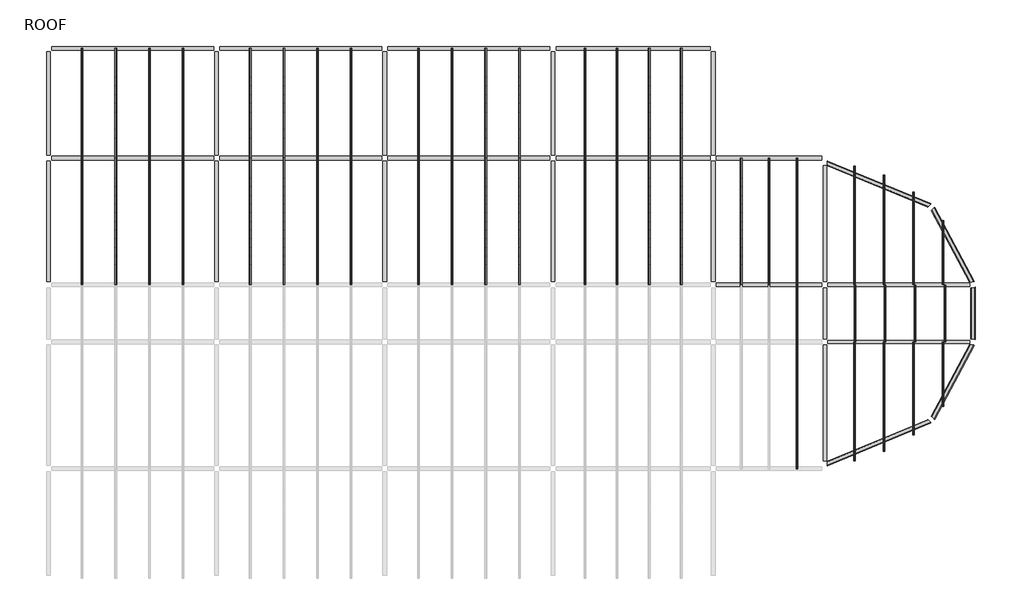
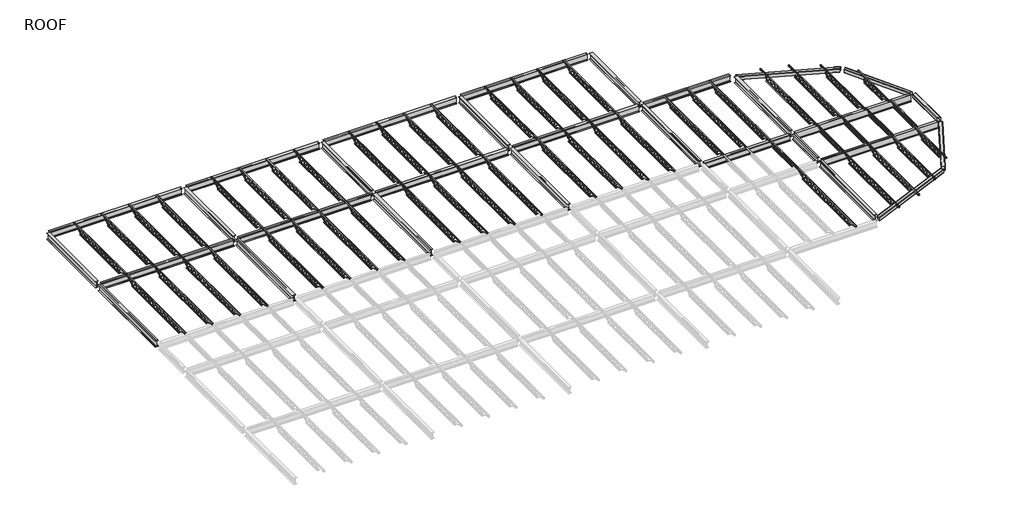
# One storey, part 2 of 2: 79 beams.
"""IFC4 building model written with IfcOpenShell, lengths in millimetres."""

from ifc_helpers import new_model, si_unit, origin, place, context, project, spatial, transform, mapped, element, save
from components import hss_square_hss8x8x3_8_81874951, hss_square_hss8x8x3_8_df46a162, hss_square_hss8x8x3_8_1cc8d9bf, hss_square_hss8x8x3_8_2c6f5ad9, k_series_bar_joist_angle_web_10k1_3bfde562, k_series_bar_joist_angle_web_14k6_e2c2b74f, k_series_bar_joist_angle_web_14k6_a55206d5, k_series_bar_joist_angle_web_14k6_bca73873, k_series_bar_joist_angle_web_14k6_7bd1886d, k_series_bar_joist_angle_web_14k6_bbb4c935, k_series_bar_joist_angle_web_14k6_18eea027, w_shapes_w12x26_ac08b433, w_shapes_w14x30_2b5df836, w_shapes_w14x30_7cdcd298, w_shapes_w14x30_aa676985, w_shapes_w14x30_0fa609c7, w_shapes_w14x30_8a2fed69, w_shapes_w14x30_0dffa004, w_shapes_w14x30_1dc52f8a, w_shapes_w16x26_e0bbcaba

model = new_model("IFC4")

# Units and contexts
model_context = context("Model", 3, world=origin())
ifc_project = project(units=[si_unit("LENGTHUNIT", "METRE", prefix="MILLI")], contexts=[model_context])

# Site, building, storey
site = spatial("IfcSite", under=ifc_project)
building = spatial("IfcBuilding", under=site)
storey = spatial("IfcBuildingStorey", under=building, Name="ROOF", Elevation=18288.0)

# Beams
placement = place(None, origin())
hss_square_hss8x8x3_8_shape = hss_square_hss8x8x3_8_81874951(model_context)
element("IfcBeam", 1, ObjectType="HSS Square : HSS8X8X3/8", at=placement, inside=storey, context=model_context, shape_type="MappedRepresentation", body=[
    mapped(hss_square_hss8x8x3_8_shape, transform((17937.9339721, 4304.5648319, 18122.9), x_axis=(1.0, 0.0, 0.0), y_axis=(0.0, 1.0, 0.0), z_axis=(0.0, 0.0, 1.0))),
])
element("IfcBeam", 2, ObjectType="HSS Square : HSS8X8X3/8", at=placement, inside=storey, context=model_context, shape_type="MappedRepresentation", body=[
    mapped(hss_square_hss8x8x3_8_shape, transform((22753.596317, -7321.472513, 18122.9), x_axis=(-0.7071067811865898, -0.7071067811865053, 0.0), y_axis=(0.7071067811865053, -0.7071067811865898, 0.0), z_axis=(0.0, 0.0, 1.0))),
])
hss_square_hss8x8x3_8_2_shape = hss_square_hss8x8x3_8_df46a162(model_context)
element("IfcBeam", 3, ObjectType="HSS Square : HSS8X8X3/8", at=placement, inside=storey, context=model_context, shape_type="MappedRepresentation", body=[
    mapped(hss_square_hss8x8x3_8_2_shape, transform((22753.596317, 2309.8521769, 18122.9), x_axis=(0.7071067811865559, -0.7071067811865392, 0.0), y_axis=(0.7071067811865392, 0.7071067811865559, 0.0), z_axis=(0.0, 0.0, 1.0))),
])
hss_square_hss8x8x3_8_3_shape = hss_square_hss8x8x3_8_1cc8d9bf(model_context)
element("IfcBeam", 4, ObjectType="HSS Square : HSS8X8X3/8", at=placement, inside=storey, context=model_context, shape_type="MappedRepresentation", body=[
    mapped(hss_square_hss8x8x3_8_3_shape, transform((24623.6673698, -1208.8226681, 18186.4), x_axis=(0.19044289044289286, -0.9816982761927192, 0.0), y_axis=(0.9816982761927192, 0.19044289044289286, 0.0), z_axis=(0.0, 0.0, 1.0))),
])
hss_square_hss8x8x3_8_4_shape = hss_square_hss8x8x3_8_2c6f5ad9(model_context)
element("IfcBeam", 5, ObjectType="HSS Square : HSS8X8X3/8", at=placement, inside=storey, context=model_context, shape_type="MappedRepresentation", body=[
    mapped(hss_square_hss8x8x3_8_4_shape, transform((24623.6673698, -3802.7976681, 18122.9), x_axis=(-0.19044289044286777, -0.981698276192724, 0.0), y_axis=(0.981698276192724, -0.19044289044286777, 0.0), z_axis=(0.0, 0.0, 1.0))),
])
k_series_bar_joist_angle_web_10k1_shape = k_series_bar_joist_angle_web_10k1_3bfde562(model_context)
element("IfcBeam", 6, ObjectType="K-Series Bar Joist-Angle Web : 10K1", at=placement, inside=storey, context=model_context, shape_type="MappedRepresentation", body=[
    mapped(k_series_bar_joist_angle_web_10k1_shape, transform((16674.6808471, -2505.8101681, 18161.0), x_axis=(0.0, -1.0, 0.0), y_axis=(1.0, 0.0, 0.0), z_axis=(0.0, 0.0, 1.0))),
])
element("IfcBeam", 7, ObjectType="K-Series Bar Joist-Angle Web : 10K1", at=placement, inside=storey, context=model_context, shape_type="MappedRepresentation", body=[
    mapped(k_series_bar_joist_angle_web_10k1_shape, transform((23386.2339721, -2505.8101681, 18161.0), x_axis=(0.0, -1.0, 0.0), y_axis=(1.0, 0.0, 0.0), z_axis=(0.0, 0.0, 1.0))),
])
element("IfcBeam", 8, ObjectType="K-Series Bar Joist-Angle Web : 10K1", at=placement, inside=storey, context=model_context, shape_type="MappedRepresentation", body=[
    mapped(k_series_bar_joist_angle_web_10k1_shape, transform((22024.1589721, -2505.8101681, 18161.0), x_axis=(0.0, -1.0, 0.0), y_axis=(1.0, 0.0, 0.0), z_axis=(0.0, 0.0, 1.0))),
])
element("IfcBeam", 9, ObjectType="K-Series Bar Joist-Angle Web : 10K1", at=placement, inside=storey, context=model_context, shape_type="MappedRepresentation", body=[
    mapped(k_series_bar_joist_angle_web_10k1_shape, transform((20662.0839721, -2505.8101681, 18161.0), x_axis=(0.0, -1.0, 0.0), y_axis=(1.0, 0.0, 0.0), z_axis=(0.0, 0.0, 1.0))),
])
element("IfcBeam", 10, ObjectType="K-Series Bar Joist-Angle Web : 10K1", at=placement, inside=storey, context=model_context, shape_type="MappedRepresentation", body=[
    mapped(k_series_bar_joist_angle_web_10k1_shape, transform((19300.0089721, -2505.8101681, 18161.0), x_axis=(0.0, -1.0, 0.0), y_axis=(1.0, 0.0, 0.0), z_axis=(0.0, 0.0, 1.0))),
])
k_series_bar_joist_angle_web_14k6_shape = k_series_bar_joist_angle_web_14k6_e2c2b74f(model_context)
element("IfcBeam", 11, ObjectType="K-Series Bar Joist-Angle Web : 14K6", at=placement, inside=storey, context=model_context, shape_type="MappedRepresentation", body=[
    mapped(k_series_bar_joist_angle_web_14k6_shape, transform((-15718.6535279, 7022.3648319, 18110.2), x_axis=(0.0, 1.0, 0.0), y_axis=(-1.0, 0.0, 0.0), z_axis=(0.0, 0.0, 1.0))),
])
element("IfcBeam", 12, ObjectType="K-Series Bar Joist-Angle Web : 14K6", at=placement, inside=storey, context=model_context, shape_type="MappedRepresentation", body=[
    mapped(k_series_bar_joist_angle_web_14k6_shape, transform((-14194.6535279, 7022.3648319, 18110.2), x_axis=(0.0, 1.0, 0.0), y_axis=(-1.0, 0.0, 0.0), z_axis=(0.0, 0.0, 1.0))),
])
element("IfcBeam", 13, ObjectType="K-Series Bar Joist-Angle Web : 14K6", at=placement, inside=storey, context=model_context, shape_type="MappedRepresentation", body=[
    mapped(k_series_bar_joist_angle_web_14k6_shape, transform((-12670.6535279, 7022.3648319, 18110.2), x_axis=(0.0, 1.0, 0.0), y_axis=(-1.0, 0.0, 0.0), z_axis=(0.0, 0.0, 1.0))),
])
element("IfcBeam", 14, ObjectType="K-Series Bar Joist-Angle Web : 14K6", at=placement, inside=storey, context=model_context, shape_type="MappedRepresentation", body=[
    mapped(k_series_bar_joist_angle_web_14k6_shape, transform((-11146.6535279, 7022.3648319, 18110.2), x_axis=(0.0, 1.0, 0.0), y_axis=(-1.0, 0.0, 0.0), z_axis=(0.0, 0.0, 1.0))),
])
element("IfcBeam", 15, ObjectType="K-Series Bar Joist-Angle Web : 14K6", at=placement, inside=storey, context=model_context, shape_type="MappedRepresentation", body=[
    mapped(k_series_bar_joist_angle_web_14k6_shape, transform((-3526.6535279, 7022.3648319, 18110.2), x_axis=(0.0, -1.0, 0.0), y_axis=(1.0, 0.0, 0.0), z_axis=(0.0, 0.0, 1.0))),
])
element("IfcBeam", 16, ObjectType="K-Series Bar Joist-Angle Web : 14K6", at=placement, inside=storey, context=model_context, shape_type="MappedRepresentation", body=[
    mapped(k_series_bar_joist_angle_web_14k6_shape, transform((-5050.6535279, 7022.3648319, 18110.2), x_axis=(0.0, -1.0, 0.0), y_axis=(1.0, 0.0, 0.0), z_axis=(0.0, 0.0, 1.0))),
])
element("IfcBeam", 17, ObjectType="K-Series Bar Joist-Angle Web : 14K6", at=placement, inside=storey, context=model_context, shape_type="MappedRepresentation", body=[
    mapped(k_series_bar_joist_angle_web_14k6_shape, transform((-6574.6535279, 7022.3648319, 18110.2), x_axis=(0.0, -1.0, 0.0), y_axis=(1.0, 0.0, 0.0), z_axis=(0.0, 0.0, 1.0))),
])
element("IfcBeam", 18, ObjectType="K-Series Bar Joist-Angle Web : 14K6", at=placement, inside=storey, context=model_context, shape_type="MappedRepresentation", body=[
    mapped(k_series_bar_joist_angle_web_14k6_shape, transform((-8098.6535279, 7022.3648319, 18110.2), x_axis=(0.0, -1.0, 0.0), y_axis=(1.0, 0.0, 0.0), z_axis=(0.0, 0.0, 1.0))),
])
element("IfcBeam", 19, ObjectType="K-Series Bar Joist-Angle Web : 14K6", at=placement, inside=storey, context=model_context, shape_type="MappedRepresentation", body=[
    mapped(k_series_bar_joist_angle_web_14k6_shape, transform((4093.3464721, 7022.3648319, 18110.2), x_axis=(0.0, -1.0, 0.0), y_axis=(1.0, 0.0, 0.0), z_axis=(0.0, 0.0, 1.0))),
])
element("IfcBeam", 20, ObjectType="K-Series Bar Joist-Angle Web : 14K6", at=placement, inside=storey, context=model_context, shape_type="MappedRepresentation", body=[
    mapped(k_series_bar_joist_angle_web_14k6_shape, transform((2569.3464721, 7022.3648319, 18110.2), x_axis=(0.0, -1.0, 0.0), y_axis=(1.0, 0.0, 0.0), z_axis=(0.0, 0.0, 1.0))),
])
element("IfcBeam", 21, ObjectType="K-Series Bar Joist-Angle Web : 14K6", at=placement, inside=storey, context=model_context, shape_type="MappedRepresentation", body=[
    mapped(k_series_bar_joist_angle_web_14k6_shape, transform((1045.3464721, 7022.3648319, 18110.2), x_axis=(0.0, -1.0, 0.0), y_axis=(1.0, 0.0, 0.0), z_axis=(0.0, 0.0, 1.0))),
])
element("IfcBeam", 22, ObjectType="K-Series Bar Joist-Angle Web : 14K6", at=placement, inside=storey, context=model_context, shape_type="MappedRepresentation", body=[
    mapped(k_series_bar_joist_angle_web_14k6_shape, transform((-478.6535279, 7022.3648319, 18110.2), x_axis=(0.0, -1.0, 0.0), y_axis=(1.0, 0.0, 0.0), z_axis=(0.0, 0.0, 1.0))),
])
element("IfcBeam", 23, ObjectType="K-Series Bar Joist-Angle Web : 14K6", at=placement, inside=storey, context=model_context, shape_type="MappedRepresentation", body=[
    mapped(k_series_bar_joist_angle_web_14k6_shape, transform((11431.4064721, 7022.3648319, 18110.2), x_axis=(0.0, -1.0, 0.0), y_axis=(1.0, 0.0, 0.0), z_axis=(0.0, 0.0, 1.0))),
])
element("IfcBeam", 24, ObjectType="K-Series Bar Joist-Angle Web : 14K6", at=placement, inside=storey, context=model_context, shape_type="MappedRepresentation", body=[
    mapped(k_series_bar_joist_angle_web_14k6_shape, transform((9977.8914721, 7022.3648319, 18110.2), x_axis=(0.0, -1.0, 0.0), y_axis=(1.0, 0.0, 0.0), z_axis=(0.0, 0.0, 1.0))),
])
element("IfcBeam", 25, ObjectType="K-Series Bar Joist-Angle Web : 14K6", at=placement, inside=storey, context=model_context, shape_type="MappedRepresentation", body=[
    mapped(k_series_bar_joist_angle_web_14k6_shape, transform((8524.3764721, 7022.3648319, 18110.2), x_axis=(0.0, -1.0, 0.0), y_axis=(1.0, 0.0, 0.0), z_axis=(0.0, 0.0, 1.0))),
])
element("IfcBeam", 26, ObjectType="K-Series Bar Joist-Angle Web : 14K6", at=placement, inside=storey, context=model_context, shape_type="MappedRepresentation", body=[
    mapped(k_series_bar_joist_angle_web_14k6_shape, transform((7070.8614721, 7022.3648319, 18110.2), x_axis=(0.0, -1.0, 0.0), y_axis=(1.0, 0.0, 0.0), z_axis=(0.0, 0.0, 1.0))),
])
k_series_bar_joist_angle_web_14k6_2_shape = k_series_bar_joist_angle_web_14k6_a55206d5(model_context)
element("IfcBeam", 27, ObjectType="K-Series Bar Joist-Angle Web : 14K6", at=placement, inside=storey, context=model_context, shape_type="MappedRepresentation", body=[
    mapped(k_series_bar_joist_angle_web_14k6_2_shape, transform((11431.4064721, 1662.9648319, 18110.2), x_axis=(0.0, -1.0, 0.0), y_axis=(1.0, 0.0, 0.0), z_axis=(0.0, 0.0, 1.0))),
])
element("IfcBeam", 28, ObjectType="K-Series Bar Joist-Angle Web : 14K6", at=placement, inside=storey, context=model_context, shape_type="MappedRepresentation", body=[
    mapped(k_series_bar_joist_angle_web_14k6_2_shape, transform((9977.8914721, 1662.9648319, 18110.2), x_axis=(0.0, -1.0, 0.0), y_axis=(1.0, 0.0, 0.0), z_axis=(0.0, 0.0, 1.0))),
])
element("IfcBeam", 29, ObjectType="K-Series Bar Joist-Angle Web : 14K6", at=placement, inside=storey, context=model_context, shape_type="MappedRepresentation", body=[
    mapped(k_series_bar_joist_angle_web_14k6_2_shape, transform((8524.3764721, 1662.9648319, 18110.2), x_axis=(0.0, -1.0, 0.0), y_axis=(1.0, 0.0, 0.0), z_axis=(0.0, 0.0, 1.0))),
])
element("IfcBeam", 30, ObjectType="K-Series Bar Joist-Angle Web : 14K6", at=placement, inside=storey, context=model_context, shape_type="MappedRepresentation", body=[
    mapped(k_series_bar_joist_angle_web_14k6_2_shape, transform((7070.8614721, 1662.9648319, 18110.2), x_axis=(0.0, -1.0, 0.0), y_axis=(1.0, 0.0, 0.0), z_axis=(0.0, 0.0, 1.0))),
])
element("IfcBeam", 31, ObjectType="K-Series Bar Joist-Angle Web : 14K6", at=placement, inside=storey, context=model_context, shape_type="MappedRepresentation", body=[
    mapped(k_series_bar_joist_angle_web_14k6_2_shape, transform((4093.3464721, 1662.9648319, 18110.2), x_axis=(0.0, -1.0, 0.0), y_axis=(1.0, 0.0, 0.0), z_axis=(0.0, 0.0, 1.0))),
])
element("IfcBeam", 32, ObjectType="K-Series Bar Joist-Angle Web : 14K6", at=placement, inside=storey, context=model_context, shape_type="MappedRepresentation", body=[
    mapped(k_series_bar_joist_angle_web_14k6_2_shape, transform((2569.3464721, 1662.9648319, 18110.2), x_axis=(0.0, -1.0, 0.0), y_axis=(1.0, 0.0, 0.0), z_axis=(0.0, 0.0, 1.0))),
])
element("IfcBeam", 33, ObjectType="K-Series Bar Joist-Angle Web : 14K6", at=placement, inside=storey, context=model_context, shape_type="MappedRepresentation", body=[
    mapped(k_series_bar_joist_angle_web_14k6_2_shape, transform((1045.3464721, 1662.9648319, 18110.2), x_axis=(0.0, -1.0, 0.0), y_axis=(1.0, 0.0, 0.0), z_axis=(0.0, 0.0, 1.0))),
])
element("IfcBeam", 34, ObjectType="K-Series Bar Joist-Angle Web : 14K6", at=placement, inside=storey, context=model_context, shape_type="MappedRepresentation", body=[
    mapped(k_series_bar_joist_angle_web_14k6_2_shape, transform((-478.6535279, 1662.9648319, 18110.2), x_axis=(0.0, -1.0, 0.0), y_axis=(1.0, 0.0, 0.0), z_axis=(0.0, 0.0, 1.0))),
])
element("IfcBeam", 35, ObjectType="K-Series Bar Joist-Angle Web : 14K6", at=placement, inside=storey, context=model_context, shape_type="MappedRepresentation", body=[
    mapped(k_series_bar_joist_angle_web_14k6_2_shape, transform((-3526.6535279, 1662.9648319, 18110.2), x_axis=(0.0, -1.0, 0.0), y_axis=(1.0, 0.0, 0.0), z_axis=(0.0, 0.0, 1.0))),
])
element("IfcBeam", 36, ObjectType="K-Series Bar Joist-Angle Web : 14K6", at=placement, inside=storey, context=model_context, shape_type="MappedRepresentation", body=[
    mapped(k_series_bar_joist_angle_web_14k6_2_shape, transform((-5050.6535279, 1662.9648319, 18110.2), x_axis=(0.0, -1.0, 0.0), y_axis=(1.0, 0.0, 0.0), z_axis=(0.0, 0.0, 1.0))),
])
element("IfcBeam", 37, ObjectType="K-Series Bar Joist-Angle Web : 14K6", at=placement, inside=storey, context=model_context, shape_type="MappedRepresentation", body=[
    mapped(k_series_bar_joist_angle_web_14k6_2_shape, transform((-6574.6535279, 1662.9648319, 18110.2), x_axis=(0.0, -1.0, 0.0), y_axis=(1.0, 0.0, 0.0), z_axis=(0.0, 0.0, 1.0))),
])
element("IfcBeam", 38, ObjectType="K-Series Bar Joist-Angle Web : 14K6", at=placement, inside=storey, context=model_context, shape_type="MappedRepresentation", body=[
    mapped(k_series_bar_joist_angle_web_14k6_2_shape, transform((-8098.6535279, 1662.9648319, 18110.2), x_axis=(0.0, -1.0, 0.0), y_axis=(1.0, 0.0, 0.0), z_axis=(0.0, 0.0, 1.0))),
])
element("IfcBeam", 39, ObjectType="K-Series Bar Joist-Angle Web : 14K6", at=placement, inside=storey, context=model_context, shape_type="MappedRepresentation", body=[
    mapped(k_series_bar_joist_angle_web_14k6_2_shape, transform((-15718.6535279, 1662.9648319, 18110.2), x_axis=(0.0, 1.0, 0.0), y_axis=(-1.0, 0.0, 0.0), z_axis=(0.0, 0.0, 1.0))),
])
element("IfcBeam", 40, ObjectType="K-Series Bar Joist-Angle Web : 14K6", at=placement, inside=storey, context=model_context, shape_type="MappedRepresentation", body=[
    mapped(k_series_bar_joist_angle_web_14k6_2_shape, transform((-14194.6535279, 1662.9648319, 18110.2), x_axis=(0.0, 1.0, 0.0), y_axis=(-1.0, 0.0, 0.0), z_axis=(0.0, 0.0, 1.0))),
])
element("IfcBeam", 41, ObjectType="K-Series Bar Joist-Angle Web : 14K6", at=placement, inside=storey, context=model_context, shape_type="MappedRepresentation", body=[
    mapped(k_series_bar_joist_angle_web_14k6_2_shape, transform((-12670.6535279, 1662.9648319, 18110.2), x_axis=(0.0, 1.0, 0.0), y_axis=(-1.0, 0.0, 0.0), z_axis=(0.0, 0.0, 1.0))),
])
element("IfcBeam", 42, ObjectType="K-Series Bar Joist-Angle Web : 14K6", at=placement, inside=storey, context=model_context, shape_type="MappedRepresentation", body=[
    mapped(k_series_bar_joist_angle_web_14k6_2_shape, transform((-11146.6535279, 1662.9648319, 18110.2), x_axis=(0.0, 1.0, 0.0), y_axis=(-1.0, 0.0, 0.0), z_axis=(0.0, 0.0, 1.0))),
])
element("IfcBeam", 43, ObjectType="K-Series Bar Joist-Angle Web : 14K6", at=placement, inside=storey, context=model_context, shape_type="MappedRepresentation", body=[
    mapped(k_series_bar_joist_angle_web_14k6_2_shape, transform((16674.6808471, 1662.9648319, 18110.2), x_axis=(0.0, -1.0, 0.0), y_axis=(1.0, 0.0, 0.0), z_axis=(0.0, 0.0, 1.0))),
])
element("IfcBeam", 44, ObjectType="K-Series Bar Joist-Angle Web : 14K6", at=placement, inside=storey, context=model_context, shape_type="MappedRepresentation", body=[
    mapped(k_series_bar_joist_angle_web_14k6_2_shape, transform((15411.4277221, 1662.9648319, 18110.2), x_axis=(0.0, -1.0, 0.0), y_axis=(1.0, 0.0, 0.0), z_axis=(0.0, 0.0, 1.0))),
])
element("IfcBeam", 45, ObjectType="K-Series Bar Joist-Angle Web : 14K6", at=placement, inside=storey, context=model_context, shape_type="MappedRepresentation", body=[
    mapped(k_series_bar_joist_angle_web_14k6_2_shape, transform((14148.1745971, 1662.9648319, 18110.2), x_axis=(0.0, -1.0, 0.0), y_axis=(1.0, 0.0, 0.0), z_axis=(0.0, 0.0, 1.0))),
])
element("IfcBeam", 46, ObjectType="K-Series Bar Joist-Angle Web : 14K6", at=placement, inside=storey, context=model_context, shape_type="MappedRepresentation", body=[
    mapped(k_series_bar_joist_angle_web_14k6_2_shape, transform((16674.6808471, -6674.5851681, 18110.2), x_axis=(0.0, 1.0, 0.0), y_axis=(-1.0, 0.0, 0.0), z_axis=(0.0, 0.0, 1.0))),
])
k_series_bar_joist_angle_web_14k6_3_shape = k_series_bar_joist_angle_web_14k6_bca73873(model_context)
element("IfcBeam", 47, ObjectType="K-Series Bar Joist-Angle Web : 14K6", at=placement, inside=storey, context=model_context, shape_type="MappedRepresentation", body=[
    mapped(k_series_bar_joist_angle_web_14k6_3_shape, transform((23286.5206903, 250.6344684, 18110.2), x_axis=(0.0, -1.0, 0.0), y_axis=(1.0, 0.0, 0.0), z_axis=(0.0, 0.0, 1.0))),
])
k_series_bar_joist_angle_web_14k6_4_shape = k_series_bar_joist_angle_web_14k6_7bd1886d(model_context)
element("IfcBeam", 48, ObjectType="K-Series Bar Joist-Angle Web : 14K6", at=placement, inside=storey, context=model_context, shape_type="MappedRepresentation", body=[
    mapped(k_series_bar_joist_angle_web_14k6_4_shape, transform((21949.3740107, 894.4810153, 18110.2), x_axis=(0.0, -1.0, 0.0), y_axis=(1.0, 0.0, 0.0), z_axis=(0.0, 0.0, 1.0))),
])
k_series_bar_joist_angle_web_14k6_5_shape = k_series_bar_joist_angle_web_14k6_bbb4c935(model_context)
element("IfcBeam", 49, ObjectType="K-Series Bar Joist-Angle Web : 14K6", at=placement, inside=storey, context=model_context, shape_type="MappedRepresentation", body=[
    mapped(k_series_bar_joist_angle_web_14k6_5_shape, transform((20612.2273312, 1274.3509761, 18110.2), x_axis=(0.0, -1.0, 0.0), y_axis=(1.0, 0.0, 0.0), z_axis=(0.0, 0.0, 1.0))),
])
k_series_bar_joist_angle_web_14k6_6_shape = k_series_bar_joist_angle_web_14k6_18eea027(model_context)
element("IfcBeam", 50, ObjectType="K-Series Bar Joist-Angle Web : 14K6", at=placement, inside=storey, context=model_context, shape_type="MappedRepresentation", body=[
    mapped(k_series_bar_joist_angle_web_14k6_6_shape, transform((19275.0806516, 1481.5923257, 18110.2), x_axis=(0.0, -1.0, 0.0), y_axis=(1.0, 0.0, 0.0), z_axis=(0.0, 0.0, 1.0))),
])
element("IfcBeam", 51, ObjectType="K-Series Bar Joist-Angle Web : 14K6", at=placement, inside=storey, context=model_context, shape_type="MappedRepresentation", body=[
    mapped(k_series_bar_joist_angle_web_14k6_3_shape, transform((23286.5206903, -5262.2548045, 18110.2), x_axis=(0.0, -1.0, 0.0), y_axis=(1.0, 0.0, 0.0), z_axis=(0.0, 0.0, 1.0))),
])
element("IfcBeam", 52, ObjectType="K-Series Bar Joist-Angle Web : 14K6", at=placement, inside=storey, context=model_context, shape_type="MappedRepresentation", body=[
    mapped(k_series_bar_joist_angle_web_14k6_4_shape, transform((21949.3740107, -5906.1013514, 18110.2), x_axis=(0.0, -1.0, 0.0), y_axis=(1.0, 0.0, 0.0), z_axis=(0.0, 0.0, 1.0))),
])
element("IfcBeam", 53, ObjectType="K-Series Bar Joist-Angle Web : 14K6", at=placement, inside=storey, context=model_context, shape_type="MappedRepresentation", body=[
    mapped(k_series_bar_joist_angle_web_14k6_5_shape, transform((20612.2273312, -6285.9713122, 18110.2), x_axis=(0.0, -1.0, 0.0), y_axis=(1.0, 0.0, 0.0), z_axis=(0.0, 0.0, 1.0))),
])
element("IfcBeam", 54, ObjectType="K-Series Bar Joist-Angle Web : 14K6", at=placement, inside=storey, context=model_context, shape_type="MappedRepresentation", body=[
    mapped(k_series_bar_joist_angle_web_14k6_6_shape, transform((19275.0806516, -6493.2126619, 18110.2), x_axis=(0.0, -1.0, 0.0), y_axis=(1.0, 0.0, 0.0), z_axis=(0.0, 0.0, 1.0))),
])
w_shapes_w12x26_shape = w_shapes_w12x26_ac08b433(model_context)
element("IfcBeam", 55, ObjectType="W Shapes : W12X26", at=placement, inside=storey, context=model_context, shape_type="MappedRepresentation", body=[
    mapped(w_shapes_w12x26_shape, transform((17937.9339721, -2505.8101681, 18133.06), x_axis=(0.0, -1.0, 0.0), y_axis=(1.0, 0.0, 0.0), z_axis=(0.0, 0.0, 1.0))),
])
w_shapes_w14x30_shape = w_shapes_w14x30_2b5df836(model_context)
element("IfcBeam", 56, ObjectType="W Shapes : W14X30", at=placement, inside=storey, context=model_context, shape_type="MappedRepresentation", body=[
    mapped(w_shapes_w14x30_shape, transform((-13432.6535279, 9509.9773319, 18049.24), x_axis=(1.0, 0.0, 0.0), y_axis=(0.0, 1.0, 0.0), z_axis=(0.0, 0.0, 1.0))),
])
element("IfcBeam", 57, ObjectType="W Shapes : W14X30", at=placement, inside=storey, context=model_context, shape_type="MappedRepresentation", body=[
    mapped(w_shapes_w14x30_shape, transform((-5812.6535279, 9509.9773319, 18049.24), x_axis=(1.0, 0.0, 0.0), y_axis=(0.0, 1.0, 0.0), z_axis=(0.0, 0.0, 1.0))),
])
element("IfcBeam", 58, ObjectType="W Shapes : W14X30", at=placement, inside=storey, context=model_context, shape_type="MappedRepresentation", body=[
    mapped(w_shapes_w14x30_shape, transform((1807.3464721, 9509.9773319, 18049.24), x_axis=(1.0, 0.0, 0.0), y_axis=(0.0, 1.0, 0.0), z_axis=(0.0, 0.0, 1.0))),
])
element("IfcBeam", 59, ObjectType="W Shapes : W14X30", at=placement, inside=storey, context=model_context, shape_type="MappedRepresentation", body=[
    mapped(w_shapes_w14x30_shape, transform((1807.3464721, 4534.7523319, 18049.24), x_axis=(-1.0, 0.0, 0.0), y_axis=(0.0, -1.0, 0.0), z_axis=(0.0, 0.0, 1.0))),
])
element("IfcBeam", 60, ObjectType="W Shapes : W14X30", at=placement, inside=storey, context=model_context, shape_type="MappedRepresentation", body=[
    mapped(w_shapes_w14x30_shape, transform((-5812.6535279, 4534.7523319, 18049.24), x_axis=(-1.0, 0.0, 0.0), y_axis=(0.0, -1.0, 0.0), z_axis=(0.0, 0.0, 1.0))),
])
element("IfcBeam", 61, ObjectType="W Shapes : W14X30", at=placement, inside=storey, context=model_context, shape_type="MappedRepresentation", body=[
    mapped(w_shapes_w14x30_shape, transform((-13432.6535279, 4534.7523319, 18049.24), x_axis=(-1.0, 0.0, 0.0), y_axis=(0.0, -1.0, 0.0), z_axis=(0.0, 0.0, 1.0))),
])
w_shapes_w14x30_2_shape = w_shapes_w14x30_7cdcd298(model_context)
element("IfcBeam", 62, ObjectType="W Shapes : W14X30", at=placement, inside=storey, context=model_context, shape_type="MappedRepresentation", body=[
    mapped(w_shapes_w14x30_2_shape, transform((9251.1339721, 9509.9773319, 18049.24), x_axis=(1.0, 0.0, 0.0), y_axis=(0.0, 1.0, 0.0), z_axis=(0.0, 0.0, 1.0))),
])
element("IfcBeam", 63, ObjectType="W Shapes : W14X30", at=placement, inside=storey, context=model_context, shape_type="MappedRepresentation", body=[
    mapped(w_shapes_w14x30_2_shape, transform((9251.1339721, 4534.7523319, 18049.24), x_axis=(-1.0, 0.0, 0.0), y_axis=(0.0, -1.0, 0.0), z_axis=(0.0, 0.0, 1.0))),
])
w_shapes_w14x30_3_shape = w_shapes_w14x30_aa676985(model_context)
element("IfcBeam", 64, ObjectType="W Shapes : W14X30", at=placement, inside=storey, context=model_context, shape_type="MappedRepresentation", body=[
    mapped(w_shapes_w14x30_3_shape, transform((12884.9214721, 7022.3648319, 18112.74), x_axis=(0.0, -1.0, 0.0), y_axis=(1.0, 0.0, 0.0), z_axis=(0.0, 0.0, 1.0))),
])
element("IfcBeam", 65, ObjectType="W Shapes : W14X30", at=placement, inside=storey, context=model_context, shape_type="MappedRepresentation", body=[
    mapped(w_shapes_w14x30_3_shape, transform((-17242.6535279, 7022.3648319, 18112.74), x_axis=(0.0, 1.0, 0.0), y_axis=(-1.0, 0.0, 0.0), z_axis=(0.0, 0.0, 1.0))),
])
element("IfcBeam", 66, ObjectType="W Shapes : W14X30", at=placement, inside=storey, context=model_context, shape_type="MappedRepresentation", body=[
    mapped(w_shapes_w14x30_3_shape, transform((-9622.6535279, 7022.3648319, 18112.74), x_axis=(0.0, -1.0, 0.0), y_axis=(1.0, 0.0, 0.0), z_axis=(0.0, 0.0, 1.0))),
])
element("IfcBeam", 67, ObjectType="W Shapes : W14X30", at=placement, inside=storey, context=model_context, shape_type="MappedRepresentation", body=[
    mapped(w_shapes_w14x30_3_shape, transform((-2002.6535279, 7022.3648319, 18112.74), x_axis=(0.0, -1.0, 0.0), y_axis=(1.0, 0.0, 0.0), z_axis=(0.0, 0.0, 1.0))),
])
element("IfcBeam", 68, ObjectType="W Shapes : W14X30", at=placement, inside=storey, context=model_context, shape_type="MappedRepresentation", body=[
    mapped(w_shapes_w14x30_3_shape, transform((5617.3464721, 7022.3648319, 18112.74), x_axis=(0.0, -1.0, 0.0), y_axis=(1.0, 0.0, 0.0), z_axis=(0.0, 0.0, 1.0))),
])
w_shapes_w14x30_4_shape = w_shapes_w14x30_0fa609c7(model_context)
element("IfcBeam", 69, ObjectType="W Shapes : W14X30", at=placement, inside=storey, context=model_context, shape_type="MappedRepresentation", body=[
    mapped(w_shapes_w14x30_4_shape, transform((15411.4277221, 4534.7523319, 18049.24), x_axis=(1.0, 0.0, 0.0), y_axis=(0.0, 1.0, 0.0), z_axis=(0.0, 0.0, 1.0))),
])
element("IfcBeam", 70, ObjectType="W Shapes : W14X30", at=placement, inside=storey, context=model_context, shape_type="MappedRepresentation", body=[
    mapped(w_shapes_w14x30_4_shape, transform((15411.4277221, -1208.8226681, 18049.24), x_axis=(-1.0, 0.0, 0.0), y_axis=(0.0, -1.0, 0.0), z_axis=(0.0, 0.0, 1.0))),
])
w_shapes_w14x30_5_shape = w_shapes_w14x30_8a2fed69(model_context)
element("IfcBeam", 71, ObjectType="W Shapes : W14X30", at=placement, inside=storey, context=model_context, shape_type="MappedRepresentation", body=[
    mapped(w_shapes_w14x30_5_shape, transform((17937.9339721, 1547.8710819, 18112.74), x_axis=(0.0, -1.0, 0.0), y_axis=(1.0, 0.0, 0.0), z_axis=(0.0, 0.0, 1.0))),
])
w_shapes_w14x30_6_shape = w_shapes_w14x30_0dffa004(model_context)
element("IfcBeam", 72, ObjectType="W Shapes : W14X30", at=placement, inside=storey, context=model_context, shape_type="MappedRepresentation", body=[
    mapped(w_shapes_w14x30_6_shape, transform((-17242.6535279, 1662.9648319, 18112.74), x_axis=(0.0, 1.0, 0.0), y_axis=(-1.0, 0.0, 0.0), z_axis=(0.0, 0.0, 1.0))),
])
element("IfcBeam", 73, ObjectType="W Shapes : W14X30", at=placement, inside=storey, context=model_context, shape_type="MappedRepresentation", body=[
    mapped(w_shapes_w14x30_6_shape, transform((-9622.6535279, 1662.9648319, 18112.74), x_axis=(0.0, -1.0, 0.0), y_axis=(1.0, 0.0, 0.0), z_axis=(0.0, 0.0, 1.0))),
])
element("IfcBeam", 74, ObjectType="W Shapes : W14X30", at=placement, inside=storey, context=model_context, shape_type="MappedRepresentation", body=[
    mapped(w_shapes_w14x30_6_shape, transform((-2002.6535279, 1662.9648319, 18112.74), x_axis=(0.0, -1.0, 0.0), y_axis=(1.0, 0.0, 0.0), z_axis=(0.0, 0.0, 1.0))),
])
element("IfcBeam", 75, ObjectType="W Shapes : W14X30", at=placement, inside=storey, context=model_context, shape_type="MappedRepresentation", body=[
    mapped(w_shapes_w14x30_6_shape, transform((5617.3464721, 1662.9648319, 18112.74), x_axis=(0.0, -1.0, 0.0), y_axis=(1.0, 0.0, 0.0), z_axis=(0.0, 0.0, 1.0))),
])
element("IfcBeam", 76, ObjectType="W Shapes : W14X30", at=placement, inside=storey, context=model_context, shape_type="MappedRepresentation", body=[
    mapped(w_shapes_w14x30_6_shape, transform((12884.9214721, 1662.9648319, 18112.74), x_axis=(0.0, -1.0, 0.0), y_axis=(1.0, 0.0, 0.0), z_axis=(0.0, 0.0, 1.0))),
])
w_shapes_w14x30_7_shape = w_shapes_w14x30_1dc52f8a(model_context)
element("IfcBeam", 77, ObjectType="W Shapes : W14X30", at=placement, inside=storey, context=model_context, shape_type="MappedRepresentation", body=[
    mapped(w_shapes_w14x30_7_shape, transform((17937.9339721, -6559.4914181, 18112.74), x_axis=(0.0, -1.0, 0.0), y_axis=(1.0, 0.0, 0.0), z_axis=(0.0, 0.0, 1.0))),
])
w_shapes_w16x26_shape = w_shapes_w16x26_e0bbcaba(model_context)
element("IfcBeam", 78, ObjectType="W Shapes : W16X26", at=placement, inside=storey, context=model_context, shape_type="MappedRepresentation", body=[
    mapped(w_shapes_w16x26_shape, transform((21280.800671, -1208.8226681, 18025.11), x_axis=(1.0, 0.0, 0.0), y_axis=(0.0, 1.0, 0.0), z_axis=(0.0, 0.0, 1.0))),
])
element("IfcBeam", 79, ObjectType="W Shapes : W16X26", at=placement, inside=storey, context=model_context, shape_type="MappedRepresentation", body=[
    mapped(w_shapes_w16x26_shape, transform((21280.800671, -3802.7976681, 18025.11), x_axis=(1.0, 0.0, 0.0), y_axis=(0.0, 1.0, 0.0), z_axis=(0.0, 0.0, 1.0))),
])

save(model, "model.ifc")
